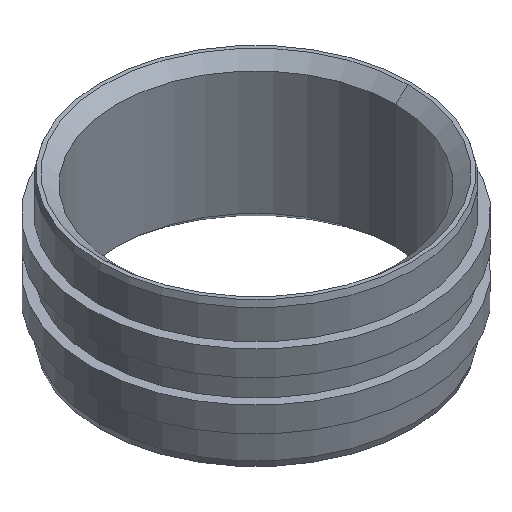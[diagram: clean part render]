
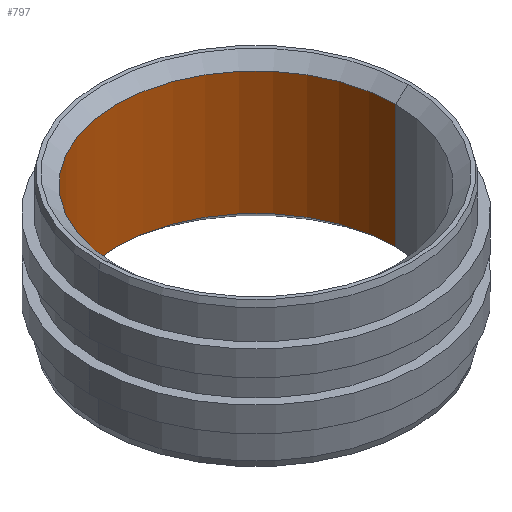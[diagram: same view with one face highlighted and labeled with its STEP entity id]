
A CAD part, isometric view. The second image highlights one B-rep face of the part: STEP entity #797.
In plain terms, the highlighted cylindrical face has radius 11.75 mm (diameter 23.5 mm), a partial arc.
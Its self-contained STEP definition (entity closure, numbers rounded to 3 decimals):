
#27 = DIRECTION ( 'NONE',  ( 0., 0., -1. ) ) ;
#85 = VERTEX_POINT ( 'NONE', #208 ) ;
#117 = EDGE_CURVE ( 'NONE', #85, #453, #182, .T. ) ;
#127 = AXIS2_PLACEMENT_3D ( 'NONE', #607, #807, #418 ) ;
#133 = CARTESIAN_POINT ( 'NONE',  ( 0., 0., 0. ) ) ;
#162 = ORIENTED_EDGE ( 'NONE', *, *, #368, .F. ) ;
#182 = CIRCLE ( 'NONE', #501, 11.75 ) ;
#208 = CARTESIAN_POINT ( 'NONE',  ( -11.75, 0., -8.3 ) ) ;
#337 = EDGE_LOOP ( 'NONE', ( #162, #737, #414, #621 ) ) ;
#341 = CARTESIAN_POINT ( 'NONE',  ( -11.75, 0., 0. ) ) ;
#342 = CARTESIAN_POINT ( 'NONE',  ( 11.75, 0., -8.3 ) ) ;
#368 = EDGE_CURVE ( 'NONE', #85, #540, #487, .T. ) ;
#384 = VECTOR ( 'NONE', #597, 1000. ) ;
#400 = AXIS2_PLACEMENT_3D ( 'NONE', #133, #813, #495 ) ;
#414 = ORIENTED_EDGE ( 'NONE', *, *, #502, .T. ) ;
#418 = DIRECTION ( 'NONE',  ( -1., 0., 0. ) ) ;
#422 = CARTESIAN_POINT ( 'NONE',  ( 11.75, 0., 2.1 ) ) ;
#453 = VERTEX_POINT ( 'NONE', #342 ) ;
#475 = DIRECTION ( 'NONE',  ( 0., 0., 1. ) ) ;
#487 = LINE ( 'NONE', #341, #679 ) ;
#495 = DIRECTION ( 'NONE',  ( 1., 0., 0. ) ) ;
#498 = LINE ( 'NONE', #790, #384 ) ;
#501 = AXIS2_PLACEMENT_3D ( 'NONE', #712, #27, #526 ) ;
#502 = EDGE_CURVE ( 'NONE', #453, #531, #498, .T. ) ;
#525 = EDGE_CURVE ( 'NONE', #531, #540, #731, .T. ) ;
#526 = DIRECTION ( 'NONE',  ( 1., 0., 0. ) ) ;
#531 = VERTEX_POINT ( 'NONE', #422 ) ;
#540 = VERTEX_POINT ( 'NONE', #734 ) ;
#597 = DIRECTION ( 'NONE',  ( 0., 0., 1. ) ) ;
#607 = CARTESIAN_POINT ( 'NONE',  ( 0., 0., 2.1 ) ) ;
#615 = CYLINDRICAL_SURFACE ( 'NONE', #400, 11.75 ) ;
#621 = ORIENTED_EDGE ( 'NONE', *, *, #525, .T. ) ;
#679 = VECTOR ( 'NONE', #475, 1000. ) ;
#712 = CARTESIAN_POINT ( 'NONE',  ( 0., 0., -8.3 ) ) ;
#731 = CIRCLE ( 'NONE', #127, 11.75 ) ;
#734 = CARTESIAN_POINT ( 'NONE',  ( -11.75, 0., 2.1 ) ) ;
#737 = ORIENTED_EDGE ( 'NONE', *, *, #117, .T. ) ;
#790 = CARTESIAN_POINT ( 'NONE',  ( 11.75, 0., 0. ) ) ;
#797 = ADVANCED_FACE ( 'NONE', ( #819 ), #615, .F. ) ;
#807 = DIRECTION ( 'NONE',  ( 0., 0., 1. ) ) ;
#813 = DIRECTION ( 'NONE',  ( 0., 0., 1. ) ) ;
#819 = FACE_OUTER_BOUND ( 'NONE', #337, .T. ) ;
